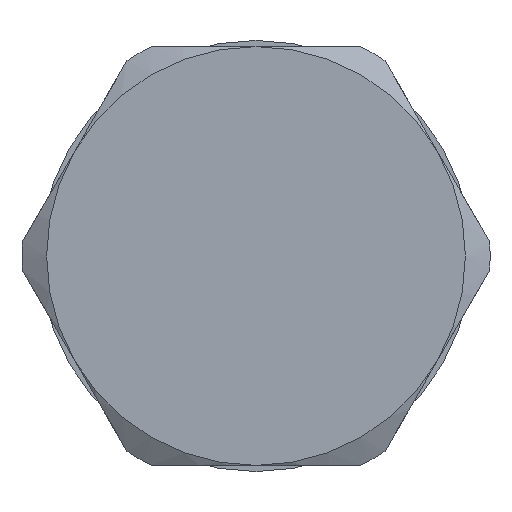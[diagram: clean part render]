
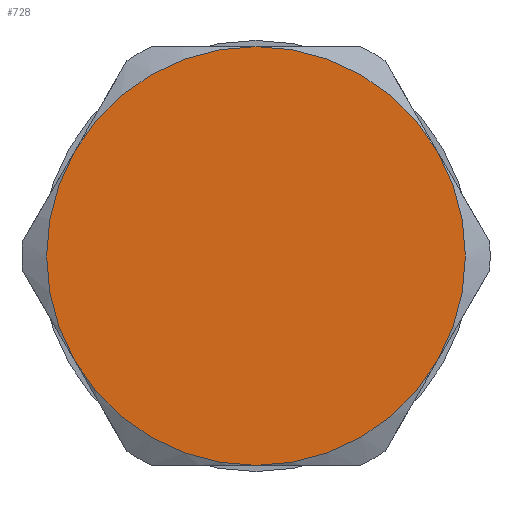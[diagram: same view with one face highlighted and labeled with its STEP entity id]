
A CAD part, front view. The second image highlights one B-rep face of the part: STEP entity #728.
In plain terms, the highlighted planar face has unit normal (0, -1, 0).
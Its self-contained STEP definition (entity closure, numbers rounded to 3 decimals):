
#47=PLANE('',#841);
#102=FACE_OUTER_BOUND('',#148,.T.);
#148=EDGE_LOOP('',(#622,#623,#624,#625,#626,#627));
#241=CIRCLE('',#788,17.);
#243=CIRCLE('',#791,17.);
#245=CIRCLE('',#794,17.);
#247=CIRCLE('',#797,17.);
#250=CIRCLE('',#801,17.);
#271=CIRCLE('',#840,17.);
#291=VERTEX_POINT('',#1125);
#297=VERTEX_POINT('',#1142);
#303=VERTEX_POINT('',#1159);
#309=VERTEX_POINT('',#1176);
#315=VERTEX_POINT('',#1193);
#321=VERTEX_POINT('',#1210);
#396=EDGE_CURVE('',#321,#315,#241,.T.);
#398=EDGE_CURVE('',#315,#309,#243,.T.);
#400=EDGE_CURVE('',#309,#303,#245,.T.);
#402=EDGE_CURVE('',#303,#297,#247,.T.);
#405=EDGE_CURVE('',#291,#321,#250,.T.);
#431=EDGE_CURVE('',#297,#291,#271,.T.);
#622=ORIENTED_EDGE('',*,*,#402,.T.);
#623=ORIENTED_EDGE('',*,*,#431,.T.);
#624=ORIENTED_EDGE('',*,*,#405,.T.);
#625=ORIENTED_EDGE('',*,*,#396,.T.);
#626=ORIENTED_EDGE('',*,*,#398,.T.);
#627=ORIENTED_EDGE('',*,*,#400,.T.);
#728=ADVANCED_FACE('',(#102),#47,.T.);
#788=AXIS2_PLACEMENT_3D('',#1227,#952,#953);
#791=AXIS2_PLACEMENT_3D('',#1230,#958,#959);
#794=AXIS2_PLACEMENT_3D('',#1233,#964,#965);
#797=AXIS2_PLACEMENT_3D('',#1236,#970,#971);
#801=AXIS2_PLACEMENT_3D('',#1240,#978,#979);
#840=AXIS2_PLACEMENT_3D('',#1291,#1061,#1062);
#841=AXIS2_PLACEMENT_3D('',#1292,#1063,#1064);
#952=DIRECTION('center_axis',(0.,-1.,0.));
#953=DIRECTION('ref_axis',(-1.,0.,0.));
#958=DIRECTION('center_axis',(0.,-1.,0.));
#959=DIRECTION('ref_axis',(-1.,0.,0.));
#964=DIRECTION('center_axis',(0.,-1.,0.));
#965=DIRECTION('ref_axis',(-1.,0.,0.));
#970=DIRECTION('center_axis',(0.,-1.,0.));
#971=DIRECTION('ref_axis',(-1.,0.,0.));
#978=DIRECTION('center_axis',(0.,-1.,0.));
#979=DIRECTION('ref_axis',(-1.,0.,0.));
#1061=DIRECTION('center_axis',(0.,-1.,0.));
#1062=DIRECTION('ref_axis',(-1.,0.,0.));
#1063=DIRECTION('center_axis',(0.,-1.,0.));
#1064=DIRECTION('ref_axis',(0.,0.,1.));
#1125=CARTESIAN_POINT('',(0.,-18.,17.));
#1142=CARTESIAN_POINT('',(14.722,-18.,8.5));
#1159=CARTESIAN_POINT('',(14.722,-18.,-8.5));
#1176=CARTESIAN_POINT('',(0.,-18.,-17.));
#1193=CARTESIAN_POINT('',(-14.722,-18.,-8.5));
#1210=CARTESIAN_POINT('',(-14.722,-18.,8.5));
#1227=CARTESIAN_POINT('Origin',(0.,-18.,0.));
#1230=CARTESIAN_POINT('Origin',(0.,-18.,0.));
#1233=CARTESIAN_POINT('Origin',(0.,-18.,0.));
#1236=CARTESIAN_POINT('Origin',(0.,-18.,0.));
#1240=CARTESIAN_POINT('Origin',(0.,-18.,0.));
#1291=CARTESIAN_POINT('Origin',(0.,-18.,0.));
#1292=CARTESIAN_POINT('Origin',(0.,-18.,0.));
